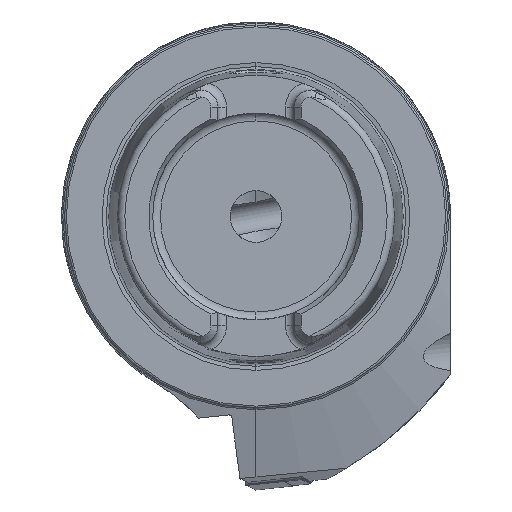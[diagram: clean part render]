
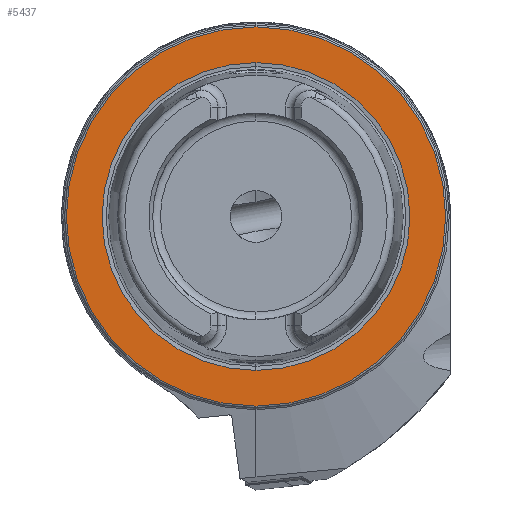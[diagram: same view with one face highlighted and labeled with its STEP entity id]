
A CAD part, left-side view. The second image highlights one B-rep face of the part: STEP entity #5437.
In plain terms, the highlighted planar face has unit normal (-1, 0, 0).
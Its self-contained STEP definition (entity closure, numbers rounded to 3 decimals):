
#155 = EDGE_CURVE ( 'NONE', #4930, #10397, #10969, .T. ) ;
#677 = ORIENTED_EDGE ( 'NONE', *, *, #4604, .F. ) ;
#744 = DIRECTION ( 'NONE',  ( -1., 0., 0. ) ) ;
#831 = DIRECTION ( 'NONE',  ( 0., 0., 1. ) ) ;
#887 = CARTESIAN_POINT ( 'NONE',  ( 0., 0., 25.324 ) ) ;
#904 = CARTESIAN_POINT ( 'NONE',  ( 0., 0., 0. ) ) ;
#2260 = ORIENTED_EDGE ( 'NONE', *, *, #9305, .T. ) ;
#2419 = CARTESIAN_POINT ( 'NONE',  ( 0., 0., -31.2 ) ) ;
#3241 = AXIS2_PLACEMENT_3D ( 'NONE', #4278, #11034, #831 ) ;
#3672 = DIRECTION ( 'NONE',  ( 0., 0., 1. ) ) ;
#3826 = EDGE_LOOP ( 'NONE', ( #9494, #2260 ) ) ;
#4278 = CARTESIAN_POINT ( 'NONE',  ( 0., 0., 0. ) ) ;
#4466 = FACE_OUTER_BOUND ( 'NONE', #3826, .T. ) ;
#4604 = EDGE_CURVE ( 'NONE', #9416, #8498, #6322, .T. ) ;
#4699 = AXIS2_PLACEMENT_3D ( 'NONE', #6280, #9741, #3672 ) ;
#4871 = CARTESIAN_POINT ( 'NONE',  ( 0., 0., 0. ) ) ;
#4914 = CARTESIAN_POINT ( 'NONE',  ( 0., 31.2, 0. ) ) ;
#4930 = VERTEX_POINT ( 'NONE', #6034 ) ;
#5065 = CIRCLE ( 'NONE', #3241, 31.2 ) ;
#5437 = ADVANCED_FACE ( 'NONE', ( #9002, #4466 ), #10049, .F. ) ;
#5517 = EDGE_CURVE ( 'NONE', #8498, #9416, #5550, .T. ) ;
#5550 = CIRCLE ( 'NONE', #9069, 25.324 ) ;
#5564 = AXIS2_PLACEMENT_3D ( 'NONE', #4871, #5616, #10855 ) ;
#5616 = DIRECTION ( 'NONE',  ( -1., 0., 0. ) ) ;
#5759 = DIRECTION ( 'NONE',  ( 1., 0., 0. ) ) ;
#5847 = DIRECTION ( 'NONE',  ( 0., 0., 1. ) ) ;
#6034 = CARTESIAN_POINT ( 'NONE',  ( 0., 0., 31.2 ) ) ;
#6280 = CARTESIAN_POINT ( 'NONE',  ( 0., 0., 0. ) ) ;
#6322 = CIRCLE ( 'NONE', #4699, 25.324 ) ;
#6330 = AXIS2_PLACEMENT_3D ( 'NONE', #4914, #5759, #8356 ) ;
#7254 = EDGE_LOOP ( 'NONE', ( #10122, #677 ) ) ;
#8356 = DIRECTION ( 'NONE',  ( 0., 0., -1. ) ) ;
#8498 = VERTEX_POINT ( 'NONE', #887 ) ;
#9002 = FACE_BOUND ( 'NONE', #7254, .T. ) ;
#9069 = AXIS2_PLACEMENT_3D ( 'NONE', #904, #744, #5847 ) ;
#9305 = EDGE_CURVE ( 'NONE', #10397, #4930, #5065, .T. ) ;
#9416 = VERTEX_POINT ( 'NONE', #9614 ) ;
#9494 = ORIENTED_EDGE ( 'NONE', *, *, #155, .T. ) ;
#9614 = CARTESIAN_POINT ( 'NONE',  ( 0., 0., -25.324 ) ) ;
#9741 = DIRECTION ( 'NONE',  ( -1., 0., 0. ) ) ;
#10049 = PLANE ( 'NONE',  #6330 ) ;
#10122 = ORIENTED_EDGE ( 'NONE', *, *, #5517, .F. ) ;
#10397 = VERTEX_POINT ( 'NONE', #2419 ) ;
#10855 = DIRECTION ( 'NONE',  ( 0., 0., 1. ) ) ;
#10969 = CIRCLE ( 'NONE', #5564, 31.2 ) ;
#11034 = DIRECTION ( 'NONE',  ( -1., 0., 0. ) ) ;
